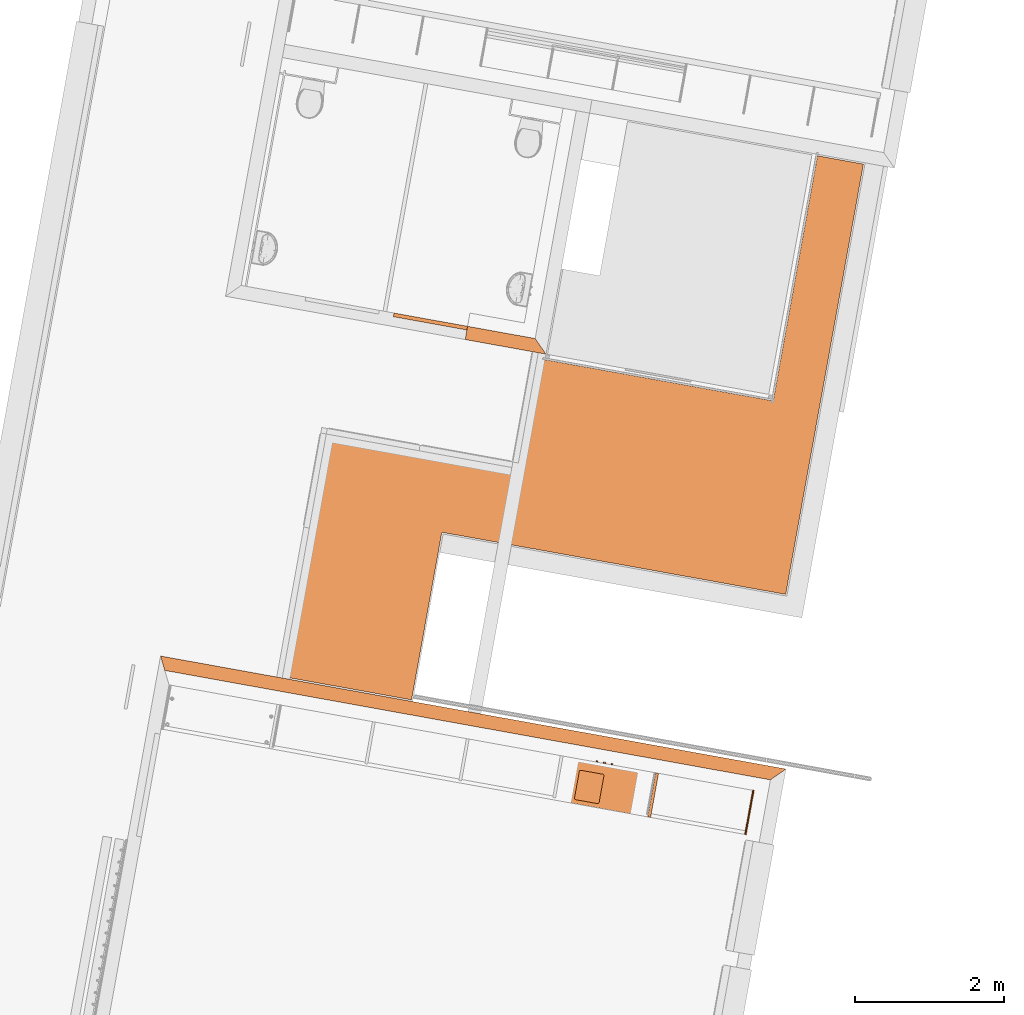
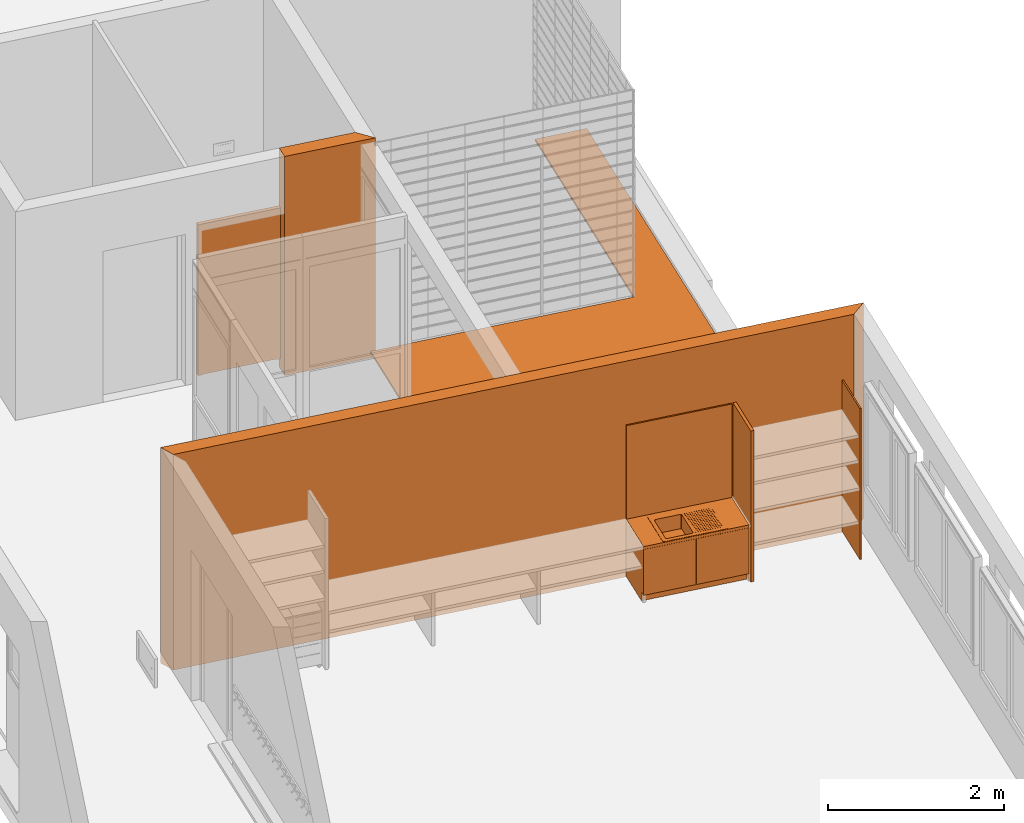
# One storey, part 14 of 52: 7 proxies.
"""IFC2X3 building model written with IfcOpenShell, lengths in metres."""

from ifc_helpers import new_model, entity, si_unit, converted_unit, derived_unit, money_unit, direction, frame, origin_with_axes, place, context, subcontext, project, spatial, polyline, outline, extrude, open_shell, faceted_brep, surface_model, source, transform, mapped, material, type_object, element, save


model = new_model("IFC2X3")

# Units and contexts
model_context = context("Model", 3, precision=1e-05, world=origin_with_axes(), true_north=direction((0.0, 1.0)))
body_context = subcontext(model_context, "Body", "Model", "MODEL_VIEW")
ifc_project = project(units=[si_unit("LENGTHUNIT", "METRE"), si_unit("AREAUNIT", "SQUARE_METRE"), si_unit("VOLUMEUNIT", "CUBIC_METRE"), converted_unit("PLANEANGLEUNIT", "DEGREE", entity("IfcPlaneAngleMeasure", 0.0174532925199), si_unit("PLANEANGLEUNIT", "RADIAN"), dimensions=[0, 0, 0, 0, 0, 0, 0]), money_unit("CHF"), converted_unit("TIMEUNIT", "Year", entity("IfcTimeMeasure", 31556926.0), si_unit("TIMEUNIT", "SECOND"), dimensions=[0, 0, 1, 0, 0, 0, 0]), si_unit("MASSUNIT", "GRAM", prefix="KILO"), si_unit("THERMODYNAMICTEMPERATUREUNIT", "DEGREE_CELSIUS"), si_unit("LUMINOUSINTENSITYUNIT", "LUMEN"), si_unit("ENERGYUNIT", "JOULE", prefix="MEGA"), derived_unit("THERMALCONDUCTANCEUNIT", [(si_unit("POWERUNIT", "WATT"), 1), (si_unit("LENGTHUNIT", "METRE"), -1), (si_unit("THERMODYNAMICTEMPERATUREUNIT", "KELVIN"), -1)]), derived_unit("SPECIFICHEATCAPACITYUNIT", [(si_unit("ENERGYUNIT", "JOULE"), 1), (si_unit("MASSUNIT", "GRAM", prefix="KILO"), -1), (si_unit("THERMODYNAMICTEMPERATUREUNIT", "KELVIN"), -1)]), derived_unit("MASSDENSITYUNIT", [(si_unit("MASSUNIT", "GRAM", prefix="KILO"), 1), (si_unit("VOLUMEUNIT", "CUBIC_METRE"), -1)])], contexts=[model_context])

# Site, building, storey
site_placement = place(None, frame((0.0, 0.0, 0.0), z_axis=(0.0, 0.0, 1.0), x_axis=(-0.177771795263, -0.984071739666, 0.0)))
site = spatial("IfcSite", under=ifc_project, at=site_placement, Name="Site", CompositionType="ELEMENT")
building_placement = place(site_placement, origin_with_axes())
building = spatial("IfcBuilding", under=site, at=building_placement, Name="Bâtiment", CompositionType="ELEMENT")
storey_placement = place(building_placement, frame((0.0, 0.0, 3.2), z_axis=(0.0, 0.0, 1.0), x_axis=(1.0, 0.0, 0.0)))
storey = spatial("IfcBuildingStorey", under=building, at=storey_placement, Name="R+1", CompositionType="ELEMENT", Elevation=3.2)

# Proxies
ifc_material_1 = material(Name="_BA banché RAL9007")
building_element_proxy_type_1 = type_object("IfcBuildingElementProxyType", Name="_M ext 18 +18 gris 360", PredefinedType="NOTDEFINED")
proxy_1_placement = place(storey_placement, frame((146.189841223, -156.62715293, -0.15), z_axis=(0.0, 0.0, 1.0), x_axis=(0.0, 1.0, 0.0)))
element("IfcBuildingElementProxy", 1, at=proxy_1_placement, inside=storey, type_object=building_element_proxy_type_1, material=ifc_material_1, Name="M ext-milieu", context=body_context, shape_type="SweptSolid", body=[
    extrude(outline(polyline([(0.09, -0.18), (8.33000283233, -0.18), (8.51000283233, 0.0), (0.0, 0.0), (0.09, -0.18)])), origin_with_axes(), (0.0, 0.0, 1.0), 3.0),
])
ifc_material_2 = material(Name="_panneau mélaminé")
building_element_proxy_type_2 = type_object("IfcBuildingElementProxyType", Name="_panneau mélaminé 40", PredefinedType="NOTDEFINED")
proxy_2_placement = place(storey_placement, frame((147.149841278, -149.826151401, 0.0), z_axis=(0.0, 0.0, 1.0), x_axis=(-1.0, 0.0, 0.0)))
element("IfcBuildingElementProxy", 2, at=proxy_2_placement, inside=storey, type_object=building_element_proxy_type_2, material=ifc_material_2, Name="cloison-fd-classe D", context=body_context, shape_type="SweptSolid", body=[
    extrude(outline(polyline([(0.0, -0.04), (0.600000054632, -0.04), (0.600000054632, 0.0), (0.0, 0.0), (0.0, -0.04)])), origin_with_axes(), (0.0, 0.0, 1.0), 2.1),
])
ifc_material_3 = material(Name="Matériau de construction IFC")
building_element_proxy_type_3 = type_object("IfcBuildingElementProxyType", Name="Porte 21", PredefinedType="NOTDEFINED")
shared_shape_1 = source(origin_with_axes(), body_context, "Body", "Brep", [
    faceted_brep([(0.95, 0.14, 0.0), (0.95, 0.13, 0.0), (0.95, 0.13, 2.05), (0.95, 0.14, 2.05), (0.962, 0.14, 0.0), (0.962, 0.18, 0.0), (1.0, 0.18, 0.0), (1.0, 0.13, 0.0), (1.0, 0.13, 2.05), (0.962, 0.14, 2.05), (1.0, 0.18, 2.05), (0.962, 0.18, 2.05)], [[[0, 1, 2, 3]], [[4, 5, 6, 7, 1, 0]], [[1, 7, 8, 2]], [[9, 3, 2, 8, 10, 11]], [[9, 4, 0, 3]], [[11, 5, 4, 9]], [[11, 10, 6, 5]], [[6, 10, 8, 7]]]),
    faceted_brep([(0.038, 0.14, 2.05), (0.038, 0.18, 2.05), (0.0, 0.18, 2.05), (0.0, 0.13, 2.05), (0.05, 0.13, 2.05), (0.05, 0.14, 2.05), (0.038, 0.14, 0.0), (0.038, 0.18, 0.0), (0.0, 0.18, 0.0), (0.0, 0.13, 0.0), (0.05, 0.13, 0.0), (0.05, 0.14, 0.0)], [[[0, 1, 2, 3, 4, 5]], [[0, 6, 7, 1]], [[7, 8, 2, 1]], [[2, 8, 9, 3]], [[3, 9, 10, 4]], [[5, 4, 10, 11]], [[5, 11, 6, 0]], [[6, 11, 10, 9, 8, 7]]]),
    faceted_brep([(0.962, 0.18, 2.062), (0.038, 0.18, 2.062), (0.038, 0.18, 2.05), (0.0, 0.18, 2.05), (0.0, 0.18, 2.1), (1.0, 0.18, 2.1), (1.0, 0.18, 2.05), (0.962, 0.18, 2.05), (0.962, 0.14, 2.062), (0.038, 0.14, 2.062), (0.038, 0.14, 2.05), (0.05, 0.14, 2.05), (0.05, 0.13, 2.05), (0.0, 0.13, 2.05), (0.0, 0.13, 2.1), (1.0, 0.13, 2.1), (1.0, 0.13, 2.05), (0.962, 0.14, 2.05), (0.95, 0.13, 2.05), (0.95, 0.14, 2.05)], [[[0, 1, 2, 3, 4, 5, 6, 7]], [[0, 8, 9, 1]], [[1, 9, 10, 2]], [[10, 11, 12, 13, 3, 2]], [[4, 3, 13, 14]], [[5, 4, 14, 15]], [[6, 5, 15, 16]], [[17, 7, 6, 16, 18, 19]], [[7, 17, 8, 0]], [[10, 9, 8, 17, 19, 11]], [[19, 18, 12, 11]], [[12, 18, 16, 15, 14, 13]]]),
    faceted_brep([(0.038, 0.17, 0.0), (0.962, 0.17, 0.0), (0.962, 0.14, 0.0), (0.038, 0.14, 0.0), (0.038, 0.17, 2.062), (0.962, 0.17, 2.062), (0.962, 0.14, 2.062), (0.038, 0.14, 2.062)], [[[0, 1, 2, 3]], [[0, 4, 5, 1]], [[1, 5, 6, 2]], [[3, 2, 6, 7]], [[4, 0, 3, 7]], [[5, 4, 7, 6]]]),
])
proxy_3_placement = place(storey_placement, frame((141.294840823, -154.367150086, 0.0), z_axis=(0.0, 0.0, 1.0), x_axis=(-2.02705790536e-07, 1.0, 0.0)))
element("IfcBuildingElementProxy", 3, at=proxy_3_placement, inside=storey, type_object=building_element_proxy_type_3, material=ifc_material_3, Name="26", context=body_context, shape_type="MappedRepresentation", body=[
    mapped(shared_shape_1, transform((0.0, 0.0, 0.0))),
])
building_element_proxy_type_4 = type_object("IfcBuildingElementProxyType", Name="_panneau mélaminé 19", PredefinedType="NOTDEFINED")
proxy_4_placement = place(storey_placement, frame((147.149841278, -148.506151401, 0.0), z_axis=(0.0, 0.0, 1.0), x_axis=(-1.0, 0.0, 0.0)))
element("IfcBuildingElementProxy", 4, at=proxy_4_placement, inside=storey, type_object=building_element_proxy_type_4, material=ifc_material_2, Name="cloison-fd-classe D", context=body_context, shape_type="SweptSolid", body=[
    extrude(outline(polyline([(0.0, -0.019), (0.600000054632, -0.019), (0.600000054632, 0.0), (0.0, 0.0), (0.0, -0.019)])), origin_with_axes(), (0.0, 0.0, 1.0), 2.1),
])
building_element_proxy_type_5 = type_object("IfcBuildingElementProxyType", Name="_M ext 18 +18 360", PredefinedType="NOTDEFINED")
proxy_5_placement = place(storey_placement, frame((141.294840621, -153.367150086, -0.15), z_axis=(0.0, 0.0, 1.0), x_axis=(-2.02705756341e-07, 1.0, 0.0)))
element("IfcBuildingElementProxy", 5, at=proxy_5_placement, inside=storey, type_object=building_element_proxy_type_5, material=ifc_material_1, Name="M refend", context=body_context, shape_type="SweptSolid", body=[
    extrude(outline(polyline([(0.0, 0.0), (1.09999912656, 0.0), (0.919999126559, 0.18), (0.0, 0.18), (0.0, 0.0)])), origin_with_axes(), (0.0, 0.0, 1.0), 3.05),
])
building_element_proxy_type_6 = type_object("IfcBuildingElementProxyType", Name="Elément simple avec deux portes 21", PredefinedType="NOTDEFINED")
shared_shape_2 = source(origin_with_axes(), body_context, "Body", "SurfaceModel", [
    surface_model("IfcShellBasedSurfaceModel", [(0.5, 0.600000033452, 0.733), (0.496505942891, 0.600000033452, 0.733460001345), (0.496505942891, 0.620000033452, 0.733460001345), (0.5, 0.620000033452, 0.733), (0.49325, 0.600000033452, 0.734808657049), (0.49325, 0.620000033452, 0.734808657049), (0.503494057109, 0.600000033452, 0.733460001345), (0.503494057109, 0.620000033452, 0.733460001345), (0.490454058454, 0.600000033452, 0.736954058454), (0.490454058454, 0.620000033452, 0.736954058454), (0.50675, 0.600000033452, 0.734808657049), (0.50675, 0.620000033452, 0.734808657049), (0.488308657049, 0.600000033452, 0.73975), (0.488308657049, 0.620000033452, 0.73975), (0.509545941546, 0.600000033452, 0.736954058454), (0.509545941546, 0.620000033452, 0.736954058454), (0.486960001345, 0.600000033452, 0.743005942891), (0.486960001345, 0.620000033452, 0.743005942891), (0.511691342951, 0.600000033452, 0.73975), (0.511691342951, 0.620000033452, 0.73975), (0.4865, 0.600000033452, 0.7465), (0.4865, 0.620000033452, 0.7465), (0.513039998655, 0.600000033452, 0.743005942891), (0.513039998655, 0.620000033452, 0.743005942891), (0.486960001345, 0.600000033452, 0.749994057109), (0.486960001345, 0.620000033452, 0.749994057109), (0.5135, 0.600000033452, 0.7465), (0.5135, 0.620000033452, 0.7465), (0.488308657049, 0.600000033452, 0.75325), (0.488308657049, 0.620000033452, 0.75325), (0.513039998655, 0.600000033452, 0.749994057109), (0.513039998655, 0.620000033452, 0.749994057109), (0.490454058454, 0.600000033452, 0.756045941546), (0.490454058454, 0.620000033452, 0.756045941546), (0.511691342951, 0.600000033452, 0.75325), (0.511691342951, 0.620000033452, 0.75325), (0.49325, 0.600000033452, 0.758191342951), (0.49325, 0.620000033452, 0.758191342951), (0.509545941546, 0.600000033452, 0.756045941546), (0.509545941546, 0.620000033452, 0.756045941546), (0.496505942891, 0.600000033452, 0.759539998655), (0.496505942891, 0.620000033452, 0.759539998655), (0.50675, 0.600000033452, 0.758191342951), (0.50675, 0.620000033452, 0.758191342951), (0.5, 0.600000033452, 0.76), (0.5, 0.620000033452, 0.76), (0.503494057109, 0.600000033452, 0.759539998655), (0.503494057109, 0.620000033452, 0.759539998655)], [open_shell([[[0, 1, 2, 3]], [[1, 4, 5, 2]], [[6, 0, 3, 7]], [[4, 8, 9, 5]], [[10, 6, 7, 11]], [[8, 12, 13, 9]], [[14, 10, 11, 15]], [[12, 16, 17, 13]], [[18, 14, 15, 19]], [[16, 20, 21, 17]], [[22, 18, 19, 23]], [[20, 24, 25, 21]], [[26, 22, 23, 27]], [[24, 28, 29, 25]], [[30, 26, 27, 31]], [[28, 32, 33, 29]], [[34, 30, 31, 35]], [[32, 36, 37, 33]], [[38, 34, 35, 39]], [[36, 40, 41, 37]], [[42, 38, 39, 43]], [[40, 44, 45, 41]], [[46, 42, 43, 47]], [[44, 46, 47, 45]]])]),
    surface_model("IfcShellBasedSurfaceModel", [(0.7, 0.600000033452, 0.733), (0.696505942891, 0.600000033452, 0.733460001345), (0.696505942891, 0.620000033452, 0.733460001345), (0.7, 0.620000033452, 0.733), (0.69325, 0.600000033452, 0.734808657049), (0.69325, 0.620000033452, 0.734808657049), (0.703494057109, 0.600000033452, 0.733460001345), (0.703494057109, 0.620000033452, 0.733460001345), (0.690454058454, 0.600000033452, 0.736954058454), (0.690454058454, 0.620000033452, 0.736954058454), (0.70675, 0.600000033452, 0.734808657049), (0.70675, 0.620000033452, 0.734808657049), (0.688308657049, 0.600000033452, 0.73975), (0.688308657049, 0.620000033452, 0.73975), (0.709545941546, 0.600000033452, 0.736954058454), (0.709545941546, 0.620000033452, 0.736954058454), (0.686960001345, 0.600000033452, 0.743005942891), (0.686960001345, 0.620000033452, 0.743005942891), (0.711691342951, 0.600000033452, 0.73975), (0.711691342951, 0.620000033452, 0.73975), (0.6865, 0.600000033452, 0.7465), (0.6865, 0.620000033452, 0.7465), (0.713039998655, 0.600000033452, 0.743005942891), (0.713039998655, 0.620000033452, 0.743005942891), (0.686960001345, 0.600000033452, 0.749994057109), (0.686960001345, 0.620000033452, 0.749994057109), (0.7135, 0.600000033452, 0.7465), (0.7135, 0.620000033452, 0.7465), (0.688308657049, 0.600000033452, 0.75325), (0.688308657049, 0.620000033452, 0.75325), (0.713039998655, 0.600000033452, 0.749994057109), (0.713039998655, 0.620000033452, 0.749994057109), (0.690454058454, 0.600000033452, 0.756045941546), (0.690454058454, 0.620000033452, 0.756045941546), (0.711691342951, 0.600000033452, 0.75325), (0.711691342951, 0.620000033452, 0.75325), (0.69325, 0.600000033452, 0.758191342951), (0.69325, 0.620000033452, 0.758191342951), (0.709545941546, 0.600000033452, 0.756045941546), (0.709545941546, 0.620000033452, 0.756045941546), (0.696505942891, 0.600000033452, 0.759539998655), (0.696505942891, 0.620000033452, 0.759539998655), (0.70675, 0.600000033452, 0.758191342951), (0.70675, 0.620000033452, 0.758191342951), (0.7, 0.600000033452, 0.76), (0.7, 0.620000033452, 0.76), (0.703494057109, 0.600000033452, 0.759539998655), (0.703494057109, 0.620000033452, 0.759539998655)], [open_shell([[[0, 1, 2, 3]], [[1, 4, 5, 2]], [[6, 0, 3, 7]], [[4, 8, 9, 5]], [[10, 6, 7, 11]], [[8, 12, 13, 9]], [[14, 10, 11, 15]], [[12, 16, 17, 13]], [[18, 14, 15, 19]], [[16, 20, 21, 17]], [[22, 18, 19, 23]], [[20, 24, 25, 21]], [[26, 22, 23, 27]], [[24, 28, 29, 25]], [[30, 26, 27, 31]], [[28, 32, 33, 29]], [[34, 30, 31, 35]], [[32, 36, 37, 33]], [[38, 34, 35, 39]], [[36, 40, 41, 37]], [[42, 38, 39, 43]], [[40, 44, 45, 41]], [[46, 42, 43, 47]], [[44, 46, 47, 45]]])]),
    surface_model("IfcShellBasedSurfaceModel", [(0.6, 0.600000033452, 0.579), (0.594564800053, 0.600000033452, 0.579715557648), (0.594564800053, 0.620000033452, 0.579715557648), (0.6, 0.620000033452, 0.579), (0.5895, 0.600000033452, 0.581813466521), (0.5895, 0.620000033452, 0.581813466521), (0.605435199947, 0.600000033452, 0.579715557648), (0.605435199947, 0.620000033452, 0.579715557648), (0.585150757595, 0.600000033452, 0.585150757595), (0.585150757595, 0.620000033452, 0.585150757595), (0.6105, 0.600000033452, 0.581813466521), (0.6105, 0.620000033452, 0.581813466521), (0.581813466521, 0.600000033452, 0.5895), (0.581813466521, 0.620000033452, 0.5895), (0.614849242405, 0.600000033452, 0.585150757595), (0.614849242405, 0.620000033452, 0.585150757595), (0.579715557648, 0.600000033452, 0.594564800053), (0.579715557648, 0.620000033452, 0.594564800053), (0.618186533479, 0.600000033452, 0.5895), (0.618186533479, 0.620000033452, 0.5895), (0.579, 0.600000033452, 0.6), (0.579, 0.620000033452, 0.6), (0.620284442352, 0.600000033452, 0.594564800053), (0.620284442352, 0.620000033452, 0.594564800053), (0.579715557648, 0.600000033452, 0.605435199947), (0.579715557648, 0.620000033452, 0.605435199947), (0.621, 0.600000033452, 0.6), (0.621, 0.620000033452, 0.6), (0.581813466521, 0.600000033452, 0.6105), (0.581813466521, 0.620000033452, 0.6105), (0.620284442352, 0.600000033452, 0.605435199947), (0.620284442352, 0.620000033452, 0.605435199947), (0.585150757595, 0.600000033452, 0.614849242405), (0.585150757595, 0.620000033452, 0.614849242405), (0.618186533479, 0.600000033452, 0.6105), (0.618186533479, 0.620000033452, 0.6105), (0.5895, 0.600000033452, 0.618186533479), (0.5895, 0.620000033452, 0.618186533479), (0.614849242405, 0.600000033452, 0.614849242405), (0.614849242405, 0.620000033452, 0.614849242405), (0.594564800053, 0.600000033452, 0.620284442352), (0.594564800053, 0.620000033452, 0.620284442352), (0.6105, 0.600000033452, 0.618186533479), (0.6105, 0.620000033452, 0.618186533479), (0.6, 0.600000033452, 0.621), (0.6, 0.620000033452, 0.621), (0.605435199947, 0.600000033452, 0.620284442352), (0.605435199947, 0.620000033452, 0.620284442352)], [open_shell([[[0, 1, 2, 3]], [[1, 4, 5, 2]], [[6, 0, 3, 7]], [[4, 8, 9, 5]], [[10, 6, 7, 11]], [[8, 12, 13, 9]], [[14, 10, 11, 15]], [[12, 16, 17, 13]], [[18, 14, 15, 19]], [[16, 20, 21, 17]], [[22, 18, 19, 23]], [[20, 24, 25, 21]], [[26, 22, 23, 27]], [[24, 28, 29, 25]], [[30, 26, 27, 31]], [[28, 32, 33, 29]], [[34, 30, 31, 35]], [[32, 36, 37, 33]], [[38, 34, 35, 39]], [[36, 40, 41, 37]], [[42, 38, 39, 43]], [[40, 44, 45, 41]], [[46, 42, 43, 47]], [[44, 46, 47, 45]]])]),
    faceted_brep([(0.0, 0.07, 0.0), (1.278, 0.07, 0.0), (1.278, 0.07, 0.12), (0.0, 0.07, 0.12), (0.0, 0.600000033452, 0.0), (1.278, 0.600000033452, 0.0), (1.278, 0.600000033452, 0.12), (0.0, 0.600000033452, 0.12)], [[[0, 1, 2, 3]], [[0, 4, 5, 1]], [[1, 5, 6, 2]], [[3, 2, 6, 7]], [[4, 0, 3, 7]], [[5, 4, 7, 6]]]),
    faceted_brep([(0.0, 0.02, 0.12), (0.02, 0.02, 0.12), (0.02, 0.02, 0.14), (0.0, 0.02, 0.14), (0.0, 0.600000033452, 0.12), (0.02, 0.600000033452, 0.12), (1.258, 0.600000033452, 0.12), (1.278, 0.600000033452, 0.12), (1.278, 0.02, 0.12), (1.258, 0.02, 0.12), (1.258, 0.02, 0.14), (1.278, 0.02, 0.14), (1.278, 0.600000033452, 0.14), (1.258, 0.600000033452, 0.14), (0.02, 0.600000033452, 0.14), (0.0, 0.600000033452, 0.14)], [[[0, 1, 2, 3]], [[0, 4, 5, 6, 7, 8, 9, 1]], [[1, 9, 10, 2]], [[3, 2, 10, 11, 12, 13, 14, 15]], [[4, 0, 3, 15]], [[5, 4, 15, 14]], [[6, 5, 14, 13]], [[7, 6, 13, 12]], [[8, 7, 12, 11]], [[9, 8, 11, 10]]]),
    faceted_brep([(0.0, 0.02, 0.14), (0.02, 0.02, 0.14), (0.02, 0.02, 0.76), (0.0, 0.02, 0.76), (0.0, 0.600000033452, 0.14), (1.278, 0.600000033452, 0.14), (1.278, 0.02, 0.14), (1.258, 0.02, 0.14), (1.258, 0.580000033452, 0.14), (0.02, 0.580000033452, 0.14), (0.02, 0.580000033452, 0.76), (1.258, 0.580000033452, 0.76), (1.258, 0.02, 0.76), (1.278, 0.02, 0.76), (1.278, 0.600000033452, 0.76), (0.0, 0.600000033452, 0.76)], [[[0, 1, 2, 3]], [[0, 4, 5, 6, 7, 8, 9, 1]], [[1, 9, 10, 2]], [[3, 2, 10, 11, 12, 13, 14, 15]], [[4, 0, 3, 15]], [[5, 4, 15, 14]], [[6, 5, 14, 13]], [[7, 6, 13, 12]], [[8, 7, 12, 11]], [[9, 8, 11, 10]]]),
    faceted_brep([(1.258, 0.02, 0.41), (1.258, 0.580000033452, 0.41), (1.258, 0.580000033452, 0.43), (1.258, 0.02, 0.43), (0.02, 0.02, 0.41), (0.02, 0.580000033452, 0.41), (0.02, 0.580000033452, 0.43), (0.02, 0.02, 0.43)], [[[0, 1, 2, 3]], [[0, 4, 5, 1]], [[1, 5, 6, 2]], [[3, 2, 6, 7]], [[4, 0, 3, 7]], [[5, 4, 7, 6]]]),
    surface_model("IfcShellBasedSurfaceModel", [(0.309, 0.0550000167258, 0.605), (0.604, 0.0550000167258, 0.605), (0.604, 0.0550000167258, 0.8), (0.309, 0.0550000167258, 0.8), (0.299, 0.0576795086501, 0.605), (0.291679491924, 0.0650000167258, 0.605), (0.289, 0.0750000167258, 0.605), (0.289, 0.435000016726, 0.605), (0.291679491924, 0.445000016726, 0.605), (0.299, 0.452320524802, 0.605), (0.309, 0.455000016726, 0.605), (0.604, 0.455000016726, 0.605), (0.614, 0.452320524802, 0.605), (0.621320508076, 0.445000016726, 0.605), (0.624, 0.435000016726, 0.605), (0.624, 0.0750000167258, 0.605), (0.618142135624, 0.0608578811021, 0.605), (0.618142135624, 0.0608578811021, 0.8), (0.299, 0.0576795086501, 0.8), (0.291679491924, 0.0650000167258, 0.8), (0.289, 0.0750000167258, 0.8), (0.289, 0.435000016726, 0.8), (0.291679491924, 0.445000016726, 0.8), (0.299, 0.452320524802, 0.8), (0.309, 0.455000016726, 0.8), (0.604, 0.455000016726, 0.8), (0.614, 0.452320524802, 0.8), (0.621320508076, 0.445000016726, 0.8), (0.624, 0.435000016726, 0.8), (0.624, 0.0750000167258, 0.8)], [open_shell([[[0, 1, 2, 3]], [[0, 4, 5, 6, 7, 8, 9, 10, 11, 12, 13, 14, 15, 16, 1]], [[1, 16, 17, 2]], [[4, 0, 3, 18]], [[5, 4, 18, 19]], [[6, 5, 19, 20]], [[7, 6, 20, 21]], [[8, 7, 21, 22]], [[9, 8, 22, 23]], [[10, 9, 23, 24]], [[11, 10, 24, 25]], [[12, 11, 25, 26]], [[13, 12, 26, 27]], [[14, 13, 27, 28]], [[15, 14, 28, 29]], [[16, 15, 29, 17]]])]),
    faceted_brep([(0.259, 0.00500001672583, 0.8), (1.019, 0.00500001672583, 0.8), (1.019, 0.00500001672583, 0.805), (0.259, 0.00500001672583, 0.805), (0.249, 0.00767950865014, 0.8), (0.241679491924, 0.0150000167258, 0.8), (0.239, 0.0250000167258, 0.8), (0.239, 0.535000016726, 0.8), (0.241679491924, 0.545000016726, 0.8), (0.249, 0.552320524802, 0.8), (0.259, 0.555000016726, 0.8), (1.019, 0.555000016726, 0.8), (1.029, 0.552320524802, 0.8), (1.03632050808, 0.545000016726, 0.8), (1.039, 0.535000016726, 0.8), (1.039, 0.0250000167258, 0.8), (1.03314213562, 0.0108578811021, 0.8), (0.309, 0.0550000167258, 0.8), (0.604, 0.0550000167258, 0.8), (0.618142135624, 0.0608578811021, 0.8), (0.624, 0.0750000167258, 0.8), (0.624, 0.435000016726, 0.8), (0.621320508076, 0.445000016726, 0.8), (0.614, 0.452320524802, 0.8), (0.604, 0.455000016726, 0.8), (0.309, 0.455000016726, 0.8), (0.299, 0.452320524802, 0.8), (0.291679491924, 0.445000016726, 0.8), (0.289, 0.435000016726, 0.8), (0.289, 0.0750000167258, 0.8), (0.291679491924, 0.0650000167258, 0.8), (0.299, 0.0576795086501, 0.8), (1.03314213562, 0.0108578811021, 0.805), (1.039, 0.0250000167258, 0.805), (1.039, 0.535000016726, 0.805), (1.03632050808, 0.545000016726, 0.805), (1.029, 0.552320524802, 0.805), (1.019, 0.555000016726, 0.805), (0.259, 0.555000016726, 0.805), (0.249, 0.552320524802, 0.805), (0.241679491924, 0.545000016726, 0.805), (0.239, 0.535000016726, 0.805), (0.239, 0.0250000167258, 0.805), (0.241679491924, 0.0150000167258, 0.805), (0.249, 0.00767950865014, 0.805), (0.309, 0.0550000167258, 0.805), (0.299, 0.0576795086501, 0.805), (0.291679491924, 0.0650000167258, 0.805), (0.289, 0.0750000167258, 0.805), (0.289, 0.435000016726, 0.805), (0.291679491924, 0.445000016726, 0.805), (0.299, 0.452320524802, 0.805), (0.309, 0.455000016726, 0.805), (0.604, 0.455000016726, 0.805), (0.614, 0.452320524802, 0.805), (0.621320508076, 0.445000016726, 0.805), (0.624, 0.435000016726, 0.805), (0.624, 0.0750000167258, 0.805), (0.618142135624, 0.0608578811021, 0.805), (0.604, 0.0550000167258, 0.805)], [[[0, 1, 2, 3]], [[0, 4, 5, 6, 7, 8, 9, 10, 11, 12, 13, 14, 15, 16, 1], [17, 18, 19, 20, 21, 22, 23, 24, 25, 26, 27, 28, 29, 30, 31]], [[1, 16, 32, 2]], [[3, 2, 32, 33, 34, 35, 36, 37, 38, 39, 40, 41, 42, 43, 44], [45, 46, 47, 48, 49, 50, 51, 52, 53, 54, 55, 56, 57, 58, 59]], [[4, 0, 3, 44]], [[5, 4, 44, 43]], [[6, 5, 43, 42]], [[7, 6, 42, 41]], [[8, 7, 41, 40]], [[9, 8, 40, 39]], [[10, 9, 39, 38]], [[11, 10, 38, 37]], [[12, 11, 37, 36]], [[13, 12, 36, 35]], [[14, 13, 35, 34]], [[15, 14, 34, 33]], [[16, 15, 33, 32]], [[18, 17, 45, 59]], [[19, 18, 59, 58]], [[20, 19, 58, 57]], [[21, 20, 57, 56]], [[22, 21, 56, 55]], [[23, 22, 55, 54]], [[24, 23, 54, 53]], [[25, 24, 53, 52]], [[26, 25, 52, 51]], [[27, 26, 51, 50]], [[28, 27, 50, 49]], [[29, 28, 49, 48]], [[30, 29, 48, 47]], [[31, 30, 47, 46]], [[17, 31, 46, 45]]]),
    faceted_brep([(0.654, 0.0600000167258, 0.805), (0.959, 0.0600000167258, 0.805), (0.959, 0.0600000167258, 0.807), (0.654, 0.0600000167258, 0.807), (0.654, 0.0650000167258, 0.805), (0.959, 0.0650000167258, 0.805), (0.959, 0.0650000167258, 0.807), (0.654, 0.0650000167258, 0.807)], [[[0, 1, 2, 3]], [[0, 4, 5, 1]], [[1, 5, 6, 2]], [[3, 2, 6, 7]], [[4, 0, 3, 7]], [[5, 4, 7, 6]]]),
    faceted_brep([(0.654, 0.0925000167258, 0.805), (0.989, 0.0925000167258, 0.805), (0.989, 0.0925000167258, 0.807), (0.654, 0.0925000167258, 0.807), (0.654, 0.0975000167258, 0.805), (0.989, 0.0975000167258, 0.805), (0.989, 0.0975000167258, 0.807), (0.654, 0.0975000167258, 0.807)], [[[0, 1, 2, 3]], [[0, 4, 5, 1]], [[1, 5, 6, 2]], [[3, 2, 6, 7]], [[4, 0, 3, 7]], [[5, 4, 7, 6]]]),
    faceted_brep([(0.654, 0.125000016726, 0.805), (0.989, 0.125000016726, 0.805), (0.989, 0.125000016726, 0.807), (0.654, 0.125000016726, 0.807), (0.654, 0.130000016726, 0.805), (0.989, 0.130000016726, 0.805), (0.989, 0.130000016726, 0.807), (0.654, 0.130000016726, 0.807)], [[[0, 1, 2, 3]], [[0, 4, 5, 1]], [[1, 5, 6, 2]], [[3, 2, 6, 7]], [[4, 0, 3, 7]], [[5, 4, 7, 6]]]),
    faceted_brep([(0.654, 0.157500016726, 0.805), (0.989, 0.157500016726, 0.805), (0.989, 0.157500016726, 0.807), (0.654, 0.157500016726, 0.807), (0.654, 0.162500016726, 0.805), (0.989, 0.162500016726, 0.805), (0.989, 0.162500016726, 0.807), (0.654, 0.162500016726, 0.807)], [[[0, 1, 2, 3]], [[0, 4, 5, 1]], [[1, 5, 6, 2]], [[3, 2, 6, 7]], [[4, 0, 3, 7]], [[5, 4, 7, 6]]]),
    faceted_brep([(0.654, 0.190000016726, 0.805), (0.989, 0.190000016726, 0.805), (0.989, 0.190000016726, 0.807), (0.654, 0.190000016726, 0.807), (0.654, 0.195000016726, 0.805), (0.989, 0.195000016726, 0.805), (0.989, 0.195000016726, 0.807), (0.654, 0.195000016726, 0.807)], [[[0, 1, 2, 3]], [[0, 4, 5, 1]], [[1, 5, 6, 2]], [[3, 2, 6, 7]], [[4, 0, 3, 7]], [[5, 4, 7, 6]]]),
    faceted_brep([(0.654, 0.222500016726, 0.805), (0.989, 0.222500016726, 0.805), (0.989, 0.222500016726, 0.807), (0.654, 0.222500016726, 0.807), (0.654, 0.227500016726, 0.805), (0.989, 0.227500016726, 0.805), (0.989, 0.227500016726, 0.807), (0.654, 0.227500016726, 0.807)], [[[0, 1, 2, 3]], [[0, 4, 5, 1]], [[1, 5, 6, 2]], [[3, 2, 6, 7]], [[4, 0, 3, 7]], [[5, 4, 7, 6]]]),
    faceted_brep([(0.654, 0.255000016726, 0.805), (0.989, 0.255000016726, 0.805), (0.989, 0.255000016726, 0.807), (0.654, 0.255000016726, 0.807), (0.654, 0.260000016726, 0.805), (0.989, 0.260000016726, 0.805), (0.989, 0.260000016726, 0.807), (0.654, 0.260000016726, 0.807)], [[[0, 1, 2, 3]], [[0, 4, 5, 1]], [[1, 5, 6, 2]], [[3, 2, 6, 7]], [[4, 0, 3, 7]], [[5, 4, 7, 6]]]),
    faceted_brep([(0.654, 0.287500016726, 0.805), (0.989, 0.287500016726, 0.805), (0.989, 0.287500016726, 0.807), (0.654, 0.287500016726, 0.807), (0.654, 0.292500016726, 0.805), (0.989, 0.292500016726, 0.805), (0.989, 0.292500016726, 0.807), (0.654, 0.292500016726, 0.807)], [[[0, 1, 2, 3]], [[0, 4, 5, 1]], [[1, 5, 6, 2]], [[3, 2, 6, 7]], [[4, 0, 3, 7]], [[5, 4, 7, 6]]]),
    faceted_brep([(0.654, 0.320000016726, 0.805), (0.989, 0.320000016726, 0.805), (0.989, 0.320000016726, 0.807), (0.654, 0.320000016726, 0.807), (0.654, 0.325000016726, 0.805), (0.989, 0.325000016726, 0.805), (0.989, 0.325000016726, 0.807), (0.654, 0.325000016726, 0.807)], [[[0, 1, 2, 3]], [[0, 4, 5, 1]], [[1, 5, 6, 2]], [[3, 2, 6, 7]], [[4, 0, 3, 7]], [[5, 4, 7, 6]]]),
    faceted_brep([(0.654, 0.352500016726, 0.805), (0.989, 0.352500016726, 0.805), (0.989, 0.352500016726, 0.807), (0.654, 0.352500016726, 0.807), (0.654, 0.357500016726, 0.805), (0.989, 0.357500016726, 0.805), (0.989, 0.357500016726, 0.807), (0.654, 0.357500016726, 0.807)], [[[0, 1, 2, 3]], [[0, 4, 5, 1]], [[1, 5, 6, 2]], [[3, 2, 6, 7]], [[4, 0, 3, 7]], [[5, 4, 7, 6]]]),
    faceted_brep([(0.654, 0.385000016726, 0.805), (0.989, 0.385000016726, 0.805), (0.989, 0.385000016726, 0.807), (0.654, 0.385000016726, 0.807), (0.654, 0.390000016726, 0.805), (0.989, 0.390000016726, 0.805), (0.989, 0.390000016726, 0.807), (0.654, 0.390000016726, 0.807)], [[[0, 1, 2, 3]], [[0, 4, 5, 1]], [[1, 5, 6, 2]], [[3, 2, 6, 7]], [[4, 0, 3, 7]], [[5, 4, 7, 6]]]),
    faceted_brep([(0.654, 0.417500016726, 0.805), (0.989, 0.417500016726, 0.805), (0.989, 0.417500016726, 0.807), (0.654, 0.417500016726, 0.807), (0.654, 0.422500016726, 0.805), (0.989, 0.422500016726, 0.805), (0.989, 0.422500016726, 0.807), (0.654, 0.422500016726, 0.807)], [[[0, 1, 2, 3]], [[0, 4, 5, 1]], [[1, 5, 6, 2]], [[3, 2, 6, 7]], [[4, 0, 3, 7]], [[5, 4, 7, 6]]]),
    faceted_brep([(0.654, 0.450000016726, 0.805), (0.959, 0.450000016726, 0.805), (0.959, 0.450000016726, 0.807), (0.654, 0.450000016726, 0.807), (0.654, 0.455000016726, 0.805), (0.959, 0.455000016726, 0.805), (0.959, 0.455000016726, 0.807), (0.654, 0.455000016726, 0.807)], [[[0, 1, 2, 3]], [[0, 4, 5, 1]], [[1, 5, 6, 2]], [[3, 2, 6, 7]], [[4, 0, 3, 7]], [[5, 4, 7, 6]]]),
    faceted_brep([(0.0, 0.0, 0.76), (1.278, 0.0, 0.76), (1.278, 0.0, 0.8), (0.0, 0.0, 0.8), (0.0, 0.600000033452, 0.76), (1.278, 0.600000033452, 0.76), (0.264, 0.0500000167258, 0.76), (1.014, 0.0500000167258, 0.76), (1.014, 0.535000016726, 0.76), (0.264, 0.535000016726, 0.76), (1.278, 0.600000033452, 0.8), (0.0, 0.600000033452, 0.8), (0.264, 0.0500000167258, 0.8), (0.264, 0.535000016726, 0.8), (1.014, 0.535000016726, 0.8), (1.014, 0.0500000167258, 0.8)], [[[0, 1, 2, 3]], [[0, 4, 5, 1], [6, 7, 8, 9]], [[1, 5, 10, 2]], [[3, 2, 10, 11], [12, 13, 14, 15]], [[4, 0, 3, 11]], [[5, 4, 11, 10]], [[7, 6, 12, 15]], [[8, 7, 15, 14]], [[9, 8, 14, 13]], [[6, 9, 13, 12]]]),
    faceted_brep([(0.0, 0.580000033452, 0.8), (1.278, 0.580000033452, 0.8), (1.278, 0.580000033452, 2.1), (0.0, 0.580000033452, 2.1), (0.0, 0.600000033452, 0.8), (1.278, 0.600000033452, 0.8), (1.278, 0.600000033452, 2.1), (0.0, 0.600000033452, 2.1)], [[[0, 1, 2, 3]], [[0, 4, 5, 1]], [[1, 5, 6, 2]], [[3, 2, 6, 7]], [[4, 0, 3, 7]], [[5, 4, 7, 6]]]),
    faceted_brep([(0.0015, 0.02, 0.1215), (0.6375, 0.02, 0.1215), (0.6375, 0.0, 0.1215), (0.0015, 0.0, 0.1215), (0.0015, 0.02, 0.7585), (0.6375, 0.02, 0.7585), (0.6375, 0.0, 0.7585), (0.0015, 0.0, 0.7585)], [[[0, 1, 2, 3]], [[0, 4, 5, 1]], [[1, 5, 6, 2]], [[3, 2, 6, 7]], [[4, 0, 3, 7]], [[5, 4, 7, 6]]]),
    faceted_brep([(1.2765, 0.02, 0.1215), (1.2765, 0.0, 0.1215), (0.6405, 0.0, 0.1215), (0.6405, 0.02, 0.1215), (1.2765, 0.02, 0.7585), (1.2765, 0.0, 0.7585), (0.6405, 0.0, 0.7585), (0.6405, 0.02, 0.7585)], [[[0, 1, 2, 3]], [[4, 5, 1, 0]], [[1, 5, 6, 2]], [[3, 2, 6, 7]], [[0, 3, 7, 4]], [[7, 6, 5, 4]]]),
])
proxy_6_placement = place(storey_placement, frame((147.14984124, -151.124151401, 0.0), z_axis=(0.0, 0.0, 1.0), x_axis=(0.0, 1.0, 0.0)))
element("IfcBuildingElementProxy", 6, at=proxy_6_placement, inside=storey, type_object=building_element_proxy_type_6, material=ifc_material_3, Name="evier-classe", context=body_context, shape_type="MappedRepresentation", body=[
    mapped(shared_shape_2, transform((0.0, 0.0, 0.0))),
])
ifc_material_4 = material(Name="_lames-composites")
building_element_proxy_type_7 = type_object("IfcBuildingElementProxyType", Name="_terrasse-accessible 150", PredefinedType="NOTDEFINED")
proxy_7_placement = place(storey_placement, frame((141.369841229, -152.352150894, -0.15), z_axis=(0.0, 0.0, 1.0), x_axis=(1.0, 0.0, 0.0)))
element("IfcBuildingElementProxy", 7, at=proxy_7_placement, inside=storey, type_object=building_element_proxy_type_7, material=ifc_material_4, Name="lames-composites", context=body_context, shape_type="SweptSolid", body=[
    extrude(outline(polyline([(0.0, 0.0), (1.51999917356, 0.0), (1.51999917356, -2.5999997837), (4.79999993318, -2.5999997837), (4.79999993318, -0.863230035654), (2.52000415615, -0.863230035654), (2.52000415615, 3.81496816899), (-3.33501950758, 3.81496816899), (-3.33501951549, 3.18999989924), (-1.27619159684e-08, 3.18999985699), (0.0, 0.0)])), frame((0.0, 0.0, 0.12), z_axis=(0.0, 0.0, 1.0), x_axis=(1.0, 0.0, 0.0)), (0.0, 0.0, 1.0), 0.03),
])

save(model, "model.ifc")
